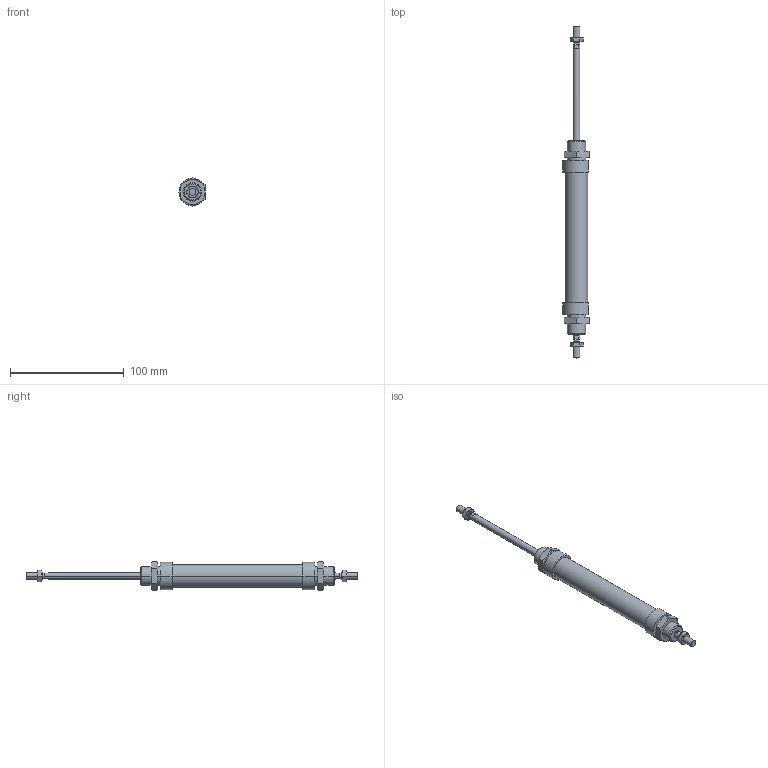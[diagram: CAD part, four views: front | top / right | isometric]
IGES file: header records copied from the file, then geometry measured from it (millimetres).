
Global section: file name: No Iges File Name specified; native system: AutoDesk Inventor R6.0; preprocessor: AutoDesk Inventor Iges Exporter R6.0; author: No Author specified; organization: No Organization specified; date: 20030403.072155; units: millimetre
Bounding box: 23 x 292 x 25.4 mm (x, y, z)
Volume: 58846.1 mm3; surface area: 23381.9 mm2
Topology: 6 solids, 6 shells, 180 faces, 388 edges, 228 vertices
Faces by surface type: cone 68, plane 56, bspline 30, cylinder 20, revolution 6
